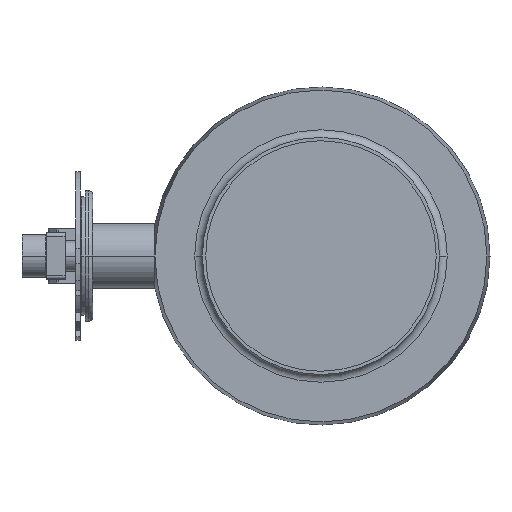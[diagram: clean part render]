
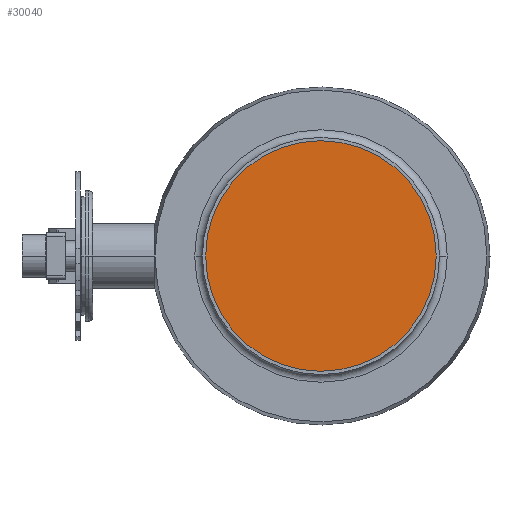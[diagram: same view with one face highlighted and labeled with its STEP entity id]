
A CAD part, left-side view. The second image highlights one B-rep face of the part: STEP entity #30040.
In plain terms, the highlighted planar face has unit normal (-1, 0, 0).
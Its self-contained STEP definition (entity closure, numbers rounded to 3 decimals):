
#29710=CARTESIAN_POINT('',(583.5,777.014,0.));
#29720=VERTEX_POINT('',#29710);
#29750=CARTESIAN_POINT('',(583.5,702.014,0.));
#29760=DIRECTION('',(-1.,0.,0.));
#29770=DIRECTION('',(0.,-1.,0.));
#29780=AXIS2_PLACEMENT_3D('',#29750,#29760,#29770);
#29790=CIRCLE('',#29780,75.);
#29800=CARTESIAN_POINT('',(583.5,627.014,0.));
#29810=VERTEX_POINT('',#29800);
#29820=EDGE_CURVE('',#29720,#29810,#29790,.T.);
#29940=CARTESIAN_POINT('',(583.5,716.008,-20.651));
#29950=DIRECTION('',(-1.,0.,0.));
#29960=DIRECTION('',(0.,-1.,0.));
#29970=AXIS2_PLACEMENT_3D('',#29940,#29950,#29960);
#29980=PLANE('',#29970);
#29990=EDGE_CURVE('',#29810,#29720,#29790,.T.);
#30000=ORIENTED_EDGE('',*,*,#29990,.T.);
#30010=ORIENTED_EDGE('',*,*,#29820,.T.);
#30020=EDGE_LOOP('',(#30010,#30000));
#30030=FACE_OUTER_BOUND('',#30020,.T.);
#30040=ADVANCED_FACE('',(#30030),#29980,.T.);
